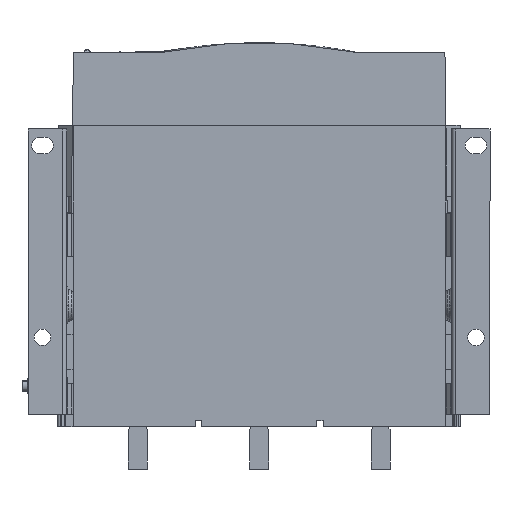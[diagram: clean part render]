
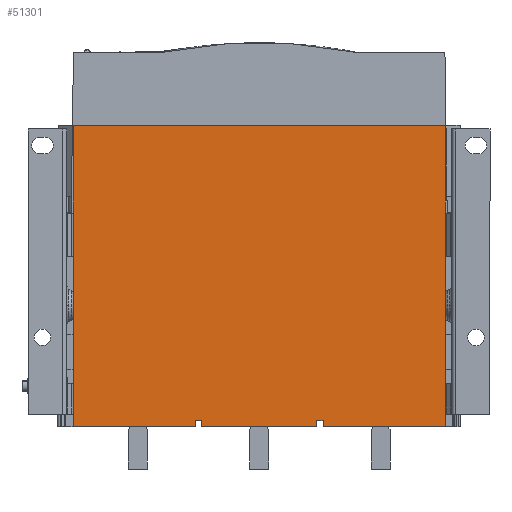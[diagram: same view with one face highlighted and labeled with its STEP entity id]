
A CAD part, front view. The second image highlights one B-rep face of the part: STEP entity #51301.
In plain terms, the highlighted planar face has unit normal (0, -1, 0).
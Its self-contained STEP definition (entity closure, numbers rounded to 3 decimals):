
#6077 = CARTESIAN_POINT ( 'NONE',  ( 83.093, 103.906, 81.2 ) ) ;
#7136 = DIRECTION ( 'NONE',  ( -1., 0., 0. ) ) ;
#8151 = LINE ( 'NONE', #181251, #112443 ) ;
#8230 = EDGE_CURVE ( 'NONE', #8301, #64935, #51102, .T. ) ;
#8291 = ORIENTED_EDGE ( 'NONE', *, *, #32009, .F. ) ;
#8301 = VERTEX_POINT ( 'NONE', #131702 ) ;
#9816 = VECTOR ( 'NONE', #174877, 1000. ) ;
#12514 = CARTESIAN_POINT ( 'NONE',  ( -17.407, 103.906, 294.7 ) ) ;
#12910 = CARTESIAN_POINT ( 'NONE',  ( 178.093, 103.906, 63.7 ) ) ;
#13422 = CARTESIAN_POINT ( 'NONE',  ( -17.407, 103.906, 711.931 ) ) ;
#13527 = CARTESIAN_POINT ( 'NONE',  ( 178.093, 103.906, 81.2 ) ) ;
#15011 = DIRECTION ( 'NONE',  ( -1., 0., 0. ) ) ;
#18068 = FACE_OUTER_BOUND ( 'NONE', #178356, .T. ) ;
#20723 = DIRECTION ( 'NONE',  ( 0., 1., 0. ) ) ;
#20915 = VECTOR ( 'NONE', #15011, 1000. ) ;
#22840 = CARTESIAN_POINT ( 'NONE',  ( 78.093, 103.906, 81.2 ) ) ;
#23376 = ORIENTED_EDGE ( 'NONE', *, *, #87071, .F. ) ;
#23600 = VERTEX_POINT ( 'NONE', #104272 ) ;
#26074 = DIRECTION ( 'NONE',  ( 1., 0., 0. ) ) ;
#26271 = LINE ( 'NONE', #22840, #65741 ) ;
#28819 = CARTESIAN_POINT ( 'NONE',  ( 273.593, 103.906, 294.7 ) ) ;
#30318 = VERTEX_POINT ( 'NONE', #164591 ) ;
#30678 = ORIENTED_EDGE ( 'NONE', *, *, #64679, .F. ) ;
#32009 = EDGE_CURVE ( 'NONE', #39509, #75538, #26271, .T. ) ;
#39204 = VERTEX_POINT ( 'NONE', #129294 ) ;
#39509 = VERTEX_POINT ( 'NONE', #47636 ) ;
#41654 = LINE ( 'NONE', #88405, #127254 ) ;
#46177 = EDGE_CURVE ( 'NONE', #105633, #23600, #171427, .T. ) ;
#47636 = CARTESIAN_POINT ( 'NONE',  ( 78.093, 103.906, 63.7 ) ) ;
#47907 = VERTEX_POINT ( 'NONE', #168129 ) ;
#48976 = VECTOR ( 'NONE', #81215, 1000. ) ;
#50673 = LINE ( 'NONE', #80992, #164158 ) ;
#51102 = LINE ( 'NONE', #87620, #20915 ) ;
#51301 = ADVANCED_FACE ( 'NONE', ( #18068 ), #61080, .F. ) ;
#51342 = EDGE_CURVE ( 'NONE', #47907, #39509, #50673, .T. ) ;
#52275 = DIRECTION ( 'NONE',  ( 0., 0., -1. ) ) ;
#53085 = VERTEX_POINT ( 'NONE', #65523 ) ;
#53312 = EDGE_CURVE ( 'NONE', #23600, #130694, #162749, .T. ) ;
#56525 = CARTESIAN_POINT ( 'NONE',  ( -17.407, 103.906, 226.7 ) ) ;
#57221 = ORIENTED_EDGE ( 'NONE', *, *, #176740, .T. ) ;
#58164 = LINE ( 'NONE', #13422, #85991 ) ;
#59298 = DIRECTION ( 'NONE',  ( -1., 0., 0. ) ) ;
#59588 = VECTOR ( 'NONE', #52275, 1000. ) ;
#61080 = PLANE ( 'NONE',  #111488 ) ;
#62540 = LINE ( 'NONE', #116423, #169113 ) ;
#63506 = EDGE_CURVE ( 'NONE', #110958, #30318, #41654, .T. ) ;
#64679 = EDGE_CURVE ( 'NONE', #75538, #53085, #8151, .T. ) ;
#64757 = ORIENTED_EDGE ( 'NONE', *, *, #163638, .T. ) ;
#64935 = VERTEX_POINT ( 'NONE', #142158 ) ;
#65523 = CARTESIAN_POINT ( 'NONE',  ( -17.407, 103.906, 58.7 ) ) ;
#65741 = VECTOR ( 'NONE', #95399, 1000. ) ;
#70770 = CARTESIAN_POINT ( 'NONE',  ( 273.593, 103.906, 711.931 ) ) ;
#73653 = ORIENTED_EDGE ( 'NONE', *, *, #87944, .F. ) ;
#75538 = VERTEX_POINT ( 'NONE', #92741 ) ;
#76826 = LINE ( 'NONE', #6077, #48976 ) ;
#78708 = ORIENTED_EDGE ( 'NONE', *, *, #111817, .F. ) ;
#79082 = EDGE_CURVE ( 'NONE', #130694, #39204, #62540, .T. ) ;
#80992 = CARTESIAN_POINT ( 'NONE',  ( 128.093, 103.906, 63.7 ) ) ;
#81215 = DIRECTION ( 'NONE',  ( 0., 0., 1. ) ) ;
#85719 = LINE ( 'NONE', #185512, #185356 ) ;
#85991 = VECTOR ( 'NONE', #192242, 1000. ) ;
#87071 = EDGE_CURVE ( 'NONE', #99913, #105633, #85719, .T. ) ;
#87256 = ORIENTED_EDGE ( 'NONE', *, *, #51342, .F. ) ;
#87620 = CARTESIAN_POINT ( 'NONE',  ( 128.093, 103.906, 58.7 ) ) ;
#87944 = EDGE_CURVE ( 'NONE', #30318, #8301, #131479, .T. ) ;
#88405 = CARTESIAN_POINT ( 'NONE',  ( 128.093, 103.906, 63.7 ) ) ;
#92741 = CARTESIAN_POINT ( 'NONE',  ( 78.093, 103.906, 58.7 ) ) ;
#95399 = DIRECTION ( 'NONE',  ( 0., 0., -1. ) ) ;
#99913 = VERTEX_POINT ( 'NONE', #12514 ) ;
#104272 = CARTESIAN_POINT ( 'NONE',  ( 273.593, 103.906, 226.7 ) ) ;
#105633 = VERTEX_POINT ( 'NONE', #28819 ) ;
#106191 = CARTESIAN_POINT ( 'NONE',  ( -17.407, 103.906, 711.931 ) ) ;
#107438 = DIRECTION ( 'NONE',  ( 0., 0., -1. ) ) ;
#109288 = CARTESIAN_POINT ( 'NONE',  ( 173.093, 103.906, 81.2 ) ) ;
#110958 = VERTEX_POINT ( 'NONE', #12910 ) ;
#111488 = AXIS2_PLACEMENT_3D ( 'NONE', #164597, #20723, #167781 ) ;
#111817 = EDGE_CURVE ( 'NONE', #39204, #110958, #162013, .T. ) ;
#112443 = VECTOR ( 'NONE', #166903, 1000. ) ;
#112728 = CARTESIAN_POINT ( 'NONE',  ( 273.593, 103.906, 58.7 ) ) ;
#115608 = ORIENTED_EDGE ( 'NONE', *, *, #46177, .F. ) ;
#116423 = CARTESIAN_POINT ( 'NONE',  ( 128.093, 103.906, 58.7 ) ) ;
#127254 = VECTOR ( 'NONE', #59298, 1000. ) ;
#127443 = ORIENTED_EDGE ( 'NONE', *, *, #63506, .F. ) ;
#129294 = CARTESIAN_POINT ( 'NONE',  ( 178.093, 103.906, 58.7 ) ) ;
#130694 = VERTEX_POINT ( 'NONE', #112728 ) ;
#131479 = LINE ( 'NONE', #109288, #59588 ) ;
#131702 = CARTESIAN_POINT ( 'NONE',  ( 173.093, 103.906, 58.7 ) ) ;
#134001 = DIRECTION ( 'NONE',  ( 0., 0., 1. ) ) ;
#142158 = CARTESIAN_POINT ( 'NONE',  ( 83.093, 103.906, 58.7 ) ) ;
#154101 = ORIENTED_EDGE ( 'NONE', *, *, #8230, .F. ) ;
#156966 = ORIENTED_EDGE ( 'NONE', *, *, #53312, .F. ) ;
#157669 = LINE ( 'NONE', #106191, #162340 ) ;
#159810 = VECTOR ( 'NONE', #134001, 1000. ) ;
#160061 = ORIENTED_EDGE ( 'NONE', *, *, #79082, .F. ) ;
#162013 = LINE ( 'NONE', #13527, #159810 ) ;
#162308 = DIRECTION ( 'NONE',  ( -1., 0., 0. ) ) ;
#162340 = VECTOR ( 'NONE', #107438, 1000. ) ;
#162749 = LINE ( 'NONE', #172946, #9816 ) ;
#163638 = EDGE_CURVE ( 'NONE', #186833, #53085, #157669, .T. ) ;
#164158 = VECTOR ( 'NONE', #7136, 1000. ) ;
#164591 = CARTESIAN_POINT ( 'NONE',  ( 173.093, 103.906, 63.7 ) ) ;
#164597 = CARTESIAN_POINT ( 'NONE',  ( 273.593, 103.906, 711.931 ) ) ;
#166903 = DIRECTION ( 'NONE',  ( -1., 0., 0. ) ) ;
#167781 = DIRECTION ( 'NONE',  ( 0., 0., 1. ) ) ;
#168129 = CARTESIAN_POINT ( 'NONE',  ( 83.093, 103.906, 63.7 ) ) ;
#169113 = VECTOR ( 'NONE', #162308, 1000. ) ;
#171427 = LINE ( 'NONE', #70770, #176140 ) ;
#172946 = CARTESIAN_POINT ( 'NONE',  ( 273.593, 103.906, 711.931 ) ) ;
#174877 = DIRECTION ( 'NONE',  ( 0., 0., -1. ) ) ;
#176140 = VECTOR ( 'NONE', #189266, 1000. ) ;
#176740 = EDGE_CURVE ( 'NONE', #99913, #186833, #58164, .T. ) ;
#178356 = EDGE_LOOP ( 'NONE', ( #156966, #115608, #23376, #57221, #64757, #30678, #8291, #87256, #184079, #154101, #73653, #127443, #78708, #160061 ) ) ;
#181251 = CARTESIAN_POINT ( 'NONE',  ( 128.093, 103.906, 58.7 ) ) ;
#184079 = ORIENTED_EDGE ( 'NONE', *, *, #185524, .F. ) ;
#185356 = VECTOR ( 'NONE', #26074, 1000. ) ;
#185512 = CARTESIAN_POINT ( 'NONE',  ( 273.593, 103.906, 294.7 ) ) ;
#185524 = EDGE_CURVE ( 'NONE', #64935, #47907, #76826, .T. ) ;
#186833 = VERTEX_POINT ( 'NONE', #56525 ) ;
#189266 = DIRECTION ( 'NONE',  ( 0., 0., -1. ) ) ;
#192242 = DIRECTION ( 'NONE',  ( 0., 0., -1. ) ) ;
